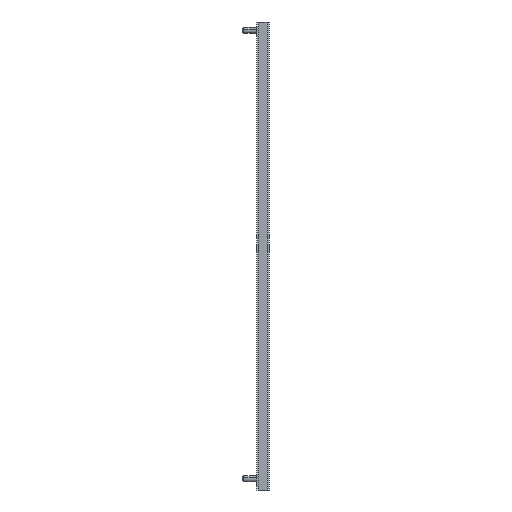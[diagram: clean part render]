
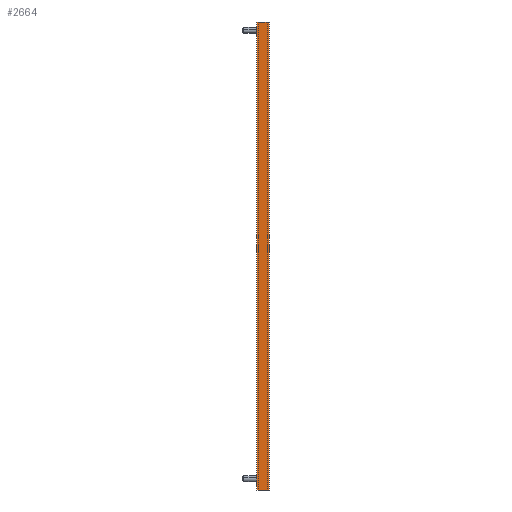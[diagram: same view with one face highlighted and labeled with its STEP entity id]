
A CAD part, left-side view. The second image highlights one B-rep face of the part: STEP entity #2664.
In plain terms, the highlighted planar face has unit normal (-1, 0, 0).
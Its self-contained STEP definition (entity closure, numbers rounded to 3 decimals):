
#2 = VECTOR ( 'NONE', #2047, 1000. ) ;
#9 = ORIENTED_EDGE ( 'NONE', *, *, #2833, .T. ) ;
#174 = ORIENTED_EDGE ( 'NONE', *, *, #2134, .T. ) ;
#205 = DIRECTION ( 'NONE',  ( 0., 1., 0. ) ) ;
#297 = VECTOR ( 'NONE', #205, 1000. ) ;
#321 = CARTESIAN_POINT ( 'NONE',  ( -8., 3.2, 0. ) ) ;
#369 = VECTOR ( 'NONE', #1378, 1000. ) ;
#381 = CARTESIAN_POINT ( 'NONE',  ( -8., 12.5, 479. ) ) ;
#395 = VERTEX_POINT ( 'NONE', #1103 ) ;
#402 = LINE ( 'NONE', #381, #2697 ) ;
#568 = LINE ( 'NONE', #3660, #297 ) ;
#652 = EDGE_CURVE ( 'NONE', #1872, #1525, #4442, .T. ) ;
#1022 = CARTESIAN_POINT ( 'NONE',  ( -8., 0., 0. ) ) ;
#1024 = DIRECTION ( 'NONE',  ( 0., 0., 1. ) ) ;
#1056 = VERTEX_POINT ( 'NONE', #1593 ) ;
#1078 = DIRECTION ( 'NONE',  ( 0., 1., 0. ) ) ;
#1103 = CARTESIAN_POINT ( 'NONE',  ( -8., 0., 0. ) ) ;
#1173 = LINE ( 'NONE', #2563, #1321 ) ;
#1265 = CARTESIAN_POINT ( 'NONE',  ( -8., 12.5, 479. ) ) ;
#1321 = VECTOR ( 'NONE', #1078, 1000. ) ;
#1355 = LINE ( 'NONE', #1022, #369 ) ;
#1369 = EDGE_CURVE ( 'NONE', #1056, #2591, #568, .T. ) ;
#1378 = DIRECTION ( 'NONE',  ( 0., -1., 0. ) ) ;
#1419 = VERTEX_POINT ( 'NONE', #4029 ) ;
#1501 = ORIENTED_EDGE ( 'NONE', *, *, #1941, .F. ) ;
#1525 = VERTEX_POINT ( 'NONE', #321 ) ;
#1546 = EDGE_CURVE ( 'NONE', #1525, #395, #1355, .T. ) ;
#1563 = CARTESIAN_POINT ( 'NONE',  ( -8., 0., 479. ) ) ;
#1587 = CARTESIAN_POINT ( 'NONE',  ( -8., 0., 479. ) ) ;
#1588 = VECTOR ( 'NONE', #3760, 1000. ) ;
#1593 = CARTESIAN_POINT ( 'NONE',  ( -8., 0., 479. ) ) ;
#1710 = ORIENTED_EDGE ( 'NONE', *, *, #2628, .T. ) ;
#1872 = VERTEX_POINT ( 'NONE', #2294 ) ;
#1941 = EDGE_CURVE ( 'NONE', #3386, #3885, #3744, .T. ) ;
#2018 = CARTESIAN_POINT ( 'NONE',  ( -8., 12.5, 479. ) ) ;
#2026 = PLANE ( 'NONE',  #4415 ) ;
#2047 = DIRECTION ( 'NONE',  ( 0., 0., 1. ) ) ;
#2060 = EDGE_CURVE ( 'NONE', #3885, #1419, #402, .T. ) ;
#2134 = EDGE_CURVE ( 'NONE', #2591, #1419, #1173, .T. ) ;
#2231 = LINE ( 'NONE', #3516, #3186 ) ;
#2294 = CARTESIAN_POINT ( 'NONE',  ( -8., 9.3, 0. ) ) ;
#2513 = CARTESIAN_POINT ( 'NONE',  ( -8., 12.5, 0. ) ) ;
#2535 = DIRECTION ( 'NONE',  ( 0., -1., 0. ) ) ;
#2552 = ORIENTED_EDGE ( 'NONE', *, *, #2060, .F. ) ;
#2563 = CARTESIAN_POINT ( 'NONE',  ( -8., 0., 479. ) ) ;
#2591 = VERTEX_POINT ( 'NONE', #3391 ) ;
#2628 = EDGE_CURVE ( 'NONE', #395, #1056, #2658, .T. ) ;
#2658 = LINE ( 'NONE', #1587, #3328 ) ;
#2664 = ADVANCED_FACE ( 'NONE', ( #3751 ), #2026, .T. ) ;
#2697 = VECTOR ( 'NONE', #2535, 1000. ) ;
#2742 = EDGE_LOOP ( 'NONE', ( #1501, #9, #4117, #3069, #1710, #3662, #174, #2552 ) ) ;
#2833 = EDGE_CURVE ( 'NONE', #3386, #1872, #2231, .T. ) ;
#2916 = DIRECTION ( 'NONE',  ( 0., -1., 0. ) ) ;
#2967 = DIRECTION ( 'NONE',  ( -1., 0., 0. ) ) ;
#3069 = ORIENTED_EDGE ( 'NONE', *, *, #1546, .T. ) ;
#3186 = VECTOR ( 'NONE', #2916, 1000. ) ;
#3328 = VECTOR ( 'NONE', #3680, 1000. ) ;
#3386 = VERTEX_POINT ( 'NONE', #2513 ) ;
#3391 = CARTESIAN_POINT ( 'NONE',  ( -8., 3.2, 479. ) ) ;
#3516 = CARTESIAN_POINT ( 'NONE',  ( -8., 0., 0. ) ) ;
#3660 = CARTESIAN_POINT ( 'NONE',  ( -8., 0., 479. ) ) ;
#3662 = ORIENTED_EDGE ( 'NONE', *, *, #1369, .T. ) ;
#3680 = DIRECTION ( 'NONE',  ( 0., 0., 1. ) ) ;
#3742 = CARTESIAN_POINT ( 'NONE',  ( -8., 0., 0. ) ) ;
#3744 = LINE ( 'NONE', #2018, #2 ) ;
#3751 = FACE_OUTER_BOUND ( 'NONE', #2742, .T. ) ;
#3760 = DIRECTION ( 'NONE',  ( 0., -1., 0. ) ) ;
#3885 = VERTEX_POINT ( 'NONE', #1265 ) ;
#4029 = CARTESIAN_POINT ( 'NONE',  ( -8., 9.3, 479. ) ) ;
#4117 = ORIENTED_EDGE ( 'NONE', *, *, #652, .T. ) ;
#4415 = AXIS2_PLACEMENT_3D ( 'NONE', #1563, #2967, #1024 ) ;
#4442 = LINE ( 'NONE', #3742, #1588 ) ;
